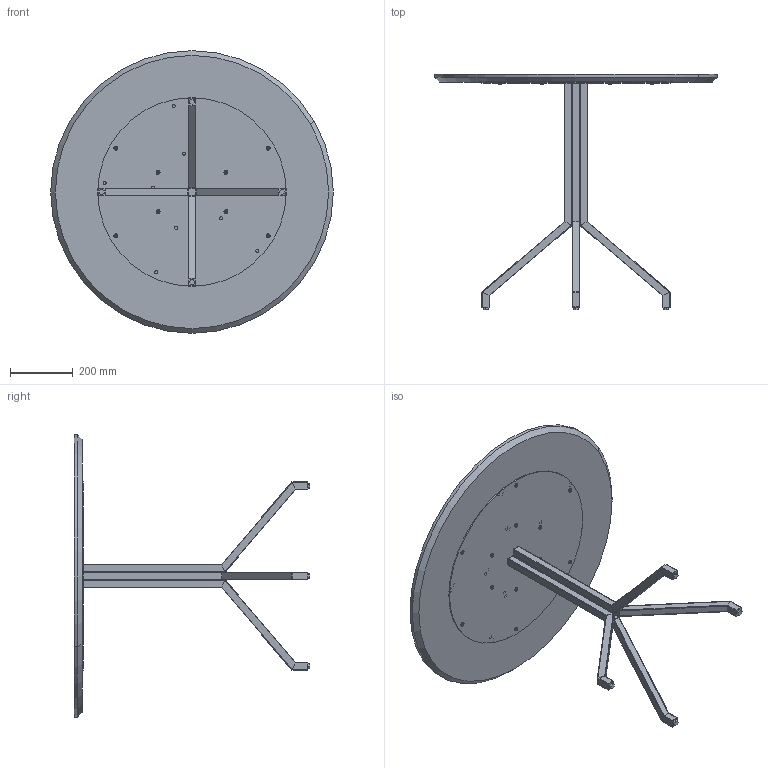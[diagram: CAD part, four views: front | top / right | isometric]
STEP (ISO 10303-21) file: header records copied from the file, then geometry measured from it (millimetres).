
FILE_DESCRIPTION (( 'STEP AP214' ), '1' );
FILE_NAME ('Chakra Table - D900xH750.STEP', '2024-04-04T12:22:53', ( '' ), ( '' ), 'SwSTEP 2.0', 'SolidWorks 2023', '' );
FILE_SCHEMA (( 'AUTOMOTIVE_DESIGN' ));
Length unit declared in the file: millimetre
Products named in the file (8): M6x16MM Flate head allen BoltR-01R-02; Wooden TopR-01R-02; Wood insert nut_M6R-01R-02; Metal FrameR-01R-02_Default<As Machined>; M6x20MM Hex LevellerR-01R-02; Metal SheetR-01R-02; Chakra Table - D900xH750; BushR-01R-02
Assembly tree (33 placements, depth 2):
  Chakra Table - D900xH750
    Metal FrameR-01R-02_Default<As Machined>
    BushR-01R-02  x4
    M6x16MM Flate head allen BoltR-01R-02  x12
    M6x20MM Hex LevellerR-01R-02  x4
    Metal SheetR-01R-02
    Wood insert nut_M6R-01R-02  x10
    Wooden TopR-01R-02
Bounding box: 900 x 750 x 900 mm (x, y, z)
Volume: 17008029.5 mm3; surface area: 2629776.7 mm2
Topology: 53 solids, 53 shells, 1794 faces, 4682 edges, 3032 vertices
Faces by surface type: cylinder 1032, plane 536, torus 100, bspline 80, cone 46
Entity records: 26024 total; most frequent: CARTESIAN_POINT 12221, ORIENTED_EDGE 2926, DIRECTION 2591, EDGE_CURVE 1463, VERTEX_POINT 966, AXIS2_PLACEMENT_3D 902, VECTOR 787, LINE 787
